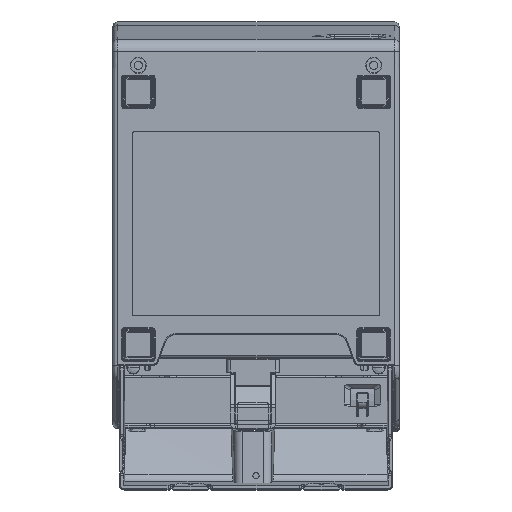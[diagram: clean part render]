
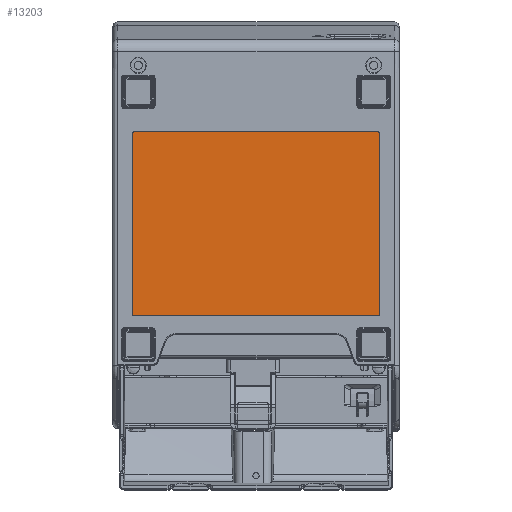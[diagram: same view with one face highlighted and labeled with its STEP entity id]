
A CAD part, front view. The second image highlights one B-rep face of the part: STEP entity #13203.
In plain terms, the highlighted planar face has unit normal (0, -1, 0).
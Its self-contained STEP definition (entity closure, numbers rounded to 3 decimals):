
#1800=CARTESIAN_POINT('',(-59.5,0.4,-56.));
#1801=DIRECTION('',(0.,1.,0.));
#1802=DIRECTION('',(-1.,0.,0.));
#1803=AXIS2_PLACEMENT_3D('',#1800,#1801,#1802);
#1805=DIRECTION('',(1.,0.,0.));
#1806=VECTOR('',#1805,119.);
#1807=CARTESIAN_POINT('',(-59.5,0.4,-55.));
#1808=LINE('',#1807,#1806);
#1809=CARTESIAN_POINT('',(59.5,0.4,-56.));
#1810=DIRECTION('',(0.,1.,0.));
#1811=DIRECTION('',(0.,0.,1.));
#1812=AXIS2_PLACEMENT_3D('',#1809,#1810,#1811);
#1814=DIRECTION('',(0.,0.,-1.));
#1815=VECTOR('',#1814,88.);
#1816=CARTESIAN_POINT('',(60.5,0.4,-56.));
#1817=LINE('',#1816,#1815);
#1818=CARTESIAN_POINT('',(59.5,0.4,-144.));
#1819=DIRECTION('',(0.,1.,0.));
#1820=DIRECTION('',(1.,0.,0.));
#1821=AXIS2_PLACEMENT_3D('',#1818,#1819,#1820);
#1823=DIRECTION('',(-1.,0.,0.));
#1824=VECTOR('',#1823,119.);
#1825=CARTESIAN_POINT('',(59.5,0.4,-145.));
#1826=LINE('',#1825,#1824);
#1827=CARTESIAN_POINT('',(-59.5,0.4,-144.));
#1828=DIRECTION('',(0.,1.,0.));
#1829=DIRECTION('',(0.,0.,-1.));
#1830=AXIS2_PLACEMENT_3D('',#1827,#1828,#1829);
#1832=DIRECTION('',(0.,0.,1.));
#1833=VECTOR('',#1832,88.);
#1834=CARTESIAN_POINT('',(-60.5,0.4,-144.));
#1835=LINE('',#1834,#1833);
#11476=CARTESIAN_POINT('',(-59.5,0.4,-55.));
#11477=CARTESIAN_POINT('',(-60.5,0.4,-56.));
#11478=VERTEX_POINT('',#11476);
#11479=VERTEX_POINT('',#11477);
#11480=CARTESIAN_POINT('',(60.5,0.4,-56.));
#11481=CARTESIAN_POINT('',(59.5,0.4,-55.));
#11482=VERTEX_POINT('',#11480);
#11483=VERTEX_POINT('',#11481);
#11484=CARTESIAN_POINT('',(59.5,0.4,-145.));
#11485=CARTESIAN_POINT('',(60.5,0.4,-144.));
#11486=VERTEX_POINT('',#11484);
#11487=VERTEX_POINT('',#11485);
#11488=CARTESIAN_POINT('',(-60.5,0.4,-144.));
#11489=CARTESIAN_POINT('',(-59.5,0.4,-145.));
#11490=VERTEX_POINT('',#11488);
#11491=VERTEX_POINT('',#11489);
#13180=CARTESIAN_POINT('',(0.,0.4,0.));
#13181=DIRECTION('',(0.,-1.,0.));
#13182=DIRECTION('',(1.,0.,0.));
#13183=AXIS2_PLACEMENT_3D('',#13180,#13181,#13182);
#13184=PLANE('',#13183);
#13186=ORIENTED_EDGE('',*,*,#13185,.T.);
#13188=ORIENTED_EDGE('',*,*,#13187,.T.);
#13190=ORIENTED_EDGE('',*,*,#13189,.T.);
#13192=ORIENTED_EDGE('',*,*,#13191,.T.);
#13194=ORIENTED_EDGE('',*,*,#13193,.T.);
#13196=ORIENTED_EDGE('',*,*,#13195,.T.);
#13198=ORIENTED_EDGE('',*,*,#13197,.T.);
#13200=ORIENTED_EDGE('',*,*,#13199,.T.);
#13201=EDGE_LOOP('',(#13186,#13188,#13190,#13192,#13194,#13196,#13198,#13200));
#13202=FACE_OUTER_BOUND('',#13201,.F.);
#1804=CIRCLE('',#1803,1.);
#1813=CIRCLE('',#1812,1.);
#1822=CIRCLE('',#1821,1.);
#1831=CIRCLE('',#1830,1.);
#13185=EDGE_CURVE('',#11479,#11478,#1804,.T.);
#13187=EDGE_CURVE('',#11478,#11483,#1808,.T.);
#13189=EDGE_CURVE('',#11483,#11482,#1813,.T.);
#13191=EDGE_CURVE('',#11482,#11487,#1817,.T.);
#13193=EDGE_CURVE('',#11487,#11486,#1822,.T.);
#13195=EDGE_CURVE('',#11486,#11491,#1826,.T.);
#13197=EDGE_CURVE('',#11491,#11490,#1831,.T.);
#13199=EDGE_CURVE('',#11490,#11479,#1835,.T.);
#13203=ADVANCED_FACE('',(#13202),#13184,.T.);
